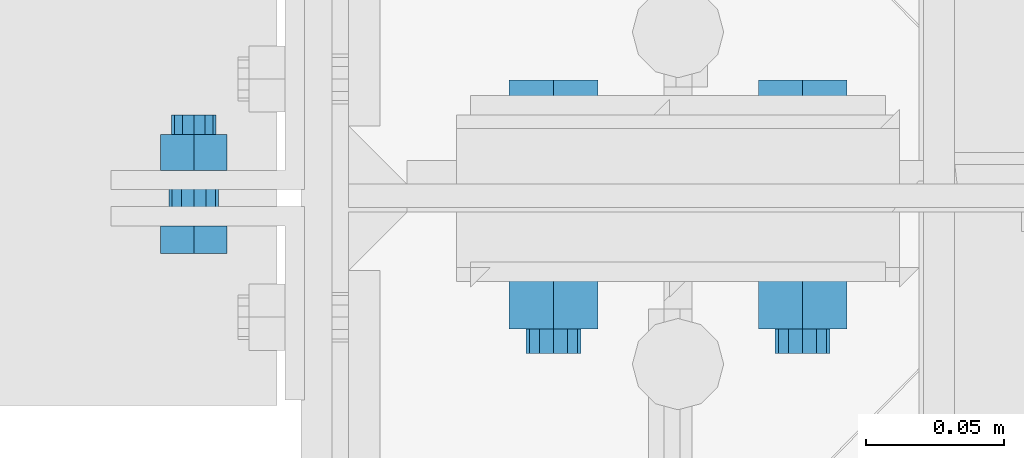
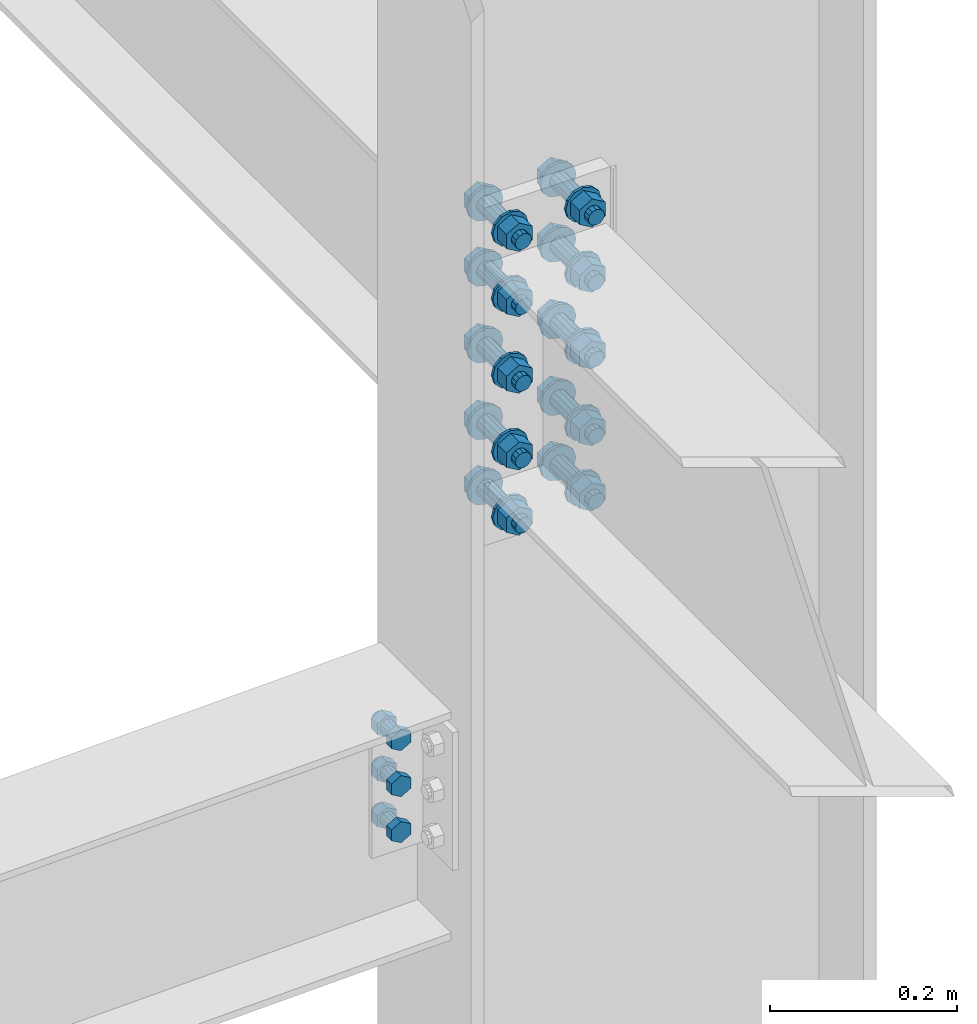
# One storey, part 92 of 3134: 2 mechanical fasteners, 2 elements without a shape of their own.
"""IFC2X3 building model written with IfcOpenShell, lengths in millimetres."""

from ifc_helpers import new_model, si_unit, frame, origin_with_axes, place, context, subcontext, project, spatial, faceted_brep, source, transform, mapped, material, type_object, element, aggregate, save


model = new_model("IFC2X3")

# Units and contexts
model_context = context("Model", 3, precision=1e-05, world=origin_with_axes())
body_context = subcontext(model_context, "Body", "Model", "MODEL_VIEW")
ifc_project = project(units=[si_unit("LENGTHUNIT", "METRE", prefix="MILLI"), si_unit("AREAUNIT", "SQUARE_METRE"), si_unit("VOLUMEUNIT", "CUBIC_METRE"), si_unit("MASSUNIT", "GRAM", prefix="KILO"), si_unit("TIMEUNIT", "SECOND"), si_unit("PLANEANGLEUNIT", "RADIAN"), si_unit("SOLIDANGLEUNIT", "STERADIAN"), si_unit("THERMODYNAMICTEMPERATUREUNIT", "DEGREE_CELSIUS"), si_unit("LUMINOUSINTENSITYUNIT", "LUMEN")], contexts=[model_context])

# Site, building, storey
site_placement = place(None, origin_with_axes())
site = spatial("IfcSite", under=ifc_project, at=site_placement, CompositionType="ELEMENT")
building_placement = place(site_placement, origin_with_axes())
building = spatial("IfcBuilding", under=site, at=building_placement, Name="Undefined", CompositionType="ELEMENT")
storey_placement = place(building_placement, origin_with_axes())
storey = spatial("IfcBuildingStorey", under=building, at=storey_placement, Name="Undefined", CompositionType="ELEMENT", Elevation=0.0)

# Assembly, mechanical fastener
assembly_1_placement = place(storey_placement, origin_with_axes())
assembly_1 = element("IfcElementAssembly", 1, at=assembly_1_placement, inside=storey, Name="300", AssemblyPlace="NOTDEFINED", PredefinedType="RIGID_FRAME")
ifc_material_1 = material(Name="HR10.9")
mechanical_fastener_type = type_object("IfcMechanicalFastenerType", Name="Bolt assembly")
shared_shape_1 = source(origin_with_axes(), body_context, "Body", "Brep", [
    faceted_brep([(18.475208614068, -18.3999996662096, 0.0), (9.23760430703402, -18.3999996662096, 16.0), (-9.23760430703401, -18.3999996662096, 16.0), (-18.475208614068, -18.3999996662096, 2.2625605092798e-15), (-9.23760430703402, -18.3999996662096, -16.0), (9.237604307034, -18.3999996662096, -16.0), (9.237604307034, -4.50000004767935, -16.0), (-9.23760430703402, -4.50000004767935, -16.0), (-18.475208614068, -4.50000004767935, 2.2625605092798e-15), (-9.23760430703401, -4.50000004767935, 16.0), (9.23760430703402, -4.50000004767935, 16.0), (18.475208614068, -4.50000004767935, 0.0), (10.0, -4.50000004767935, 0.0), (8.66025403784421, -4.50000004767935, 5.0000000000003), (4.9999999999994, -4.50000004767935, 8.66025403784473), (-1.03633598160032e-12, -4.50000004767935, 10.0), (-5.00000000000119, -4.50000004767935, 8.6602540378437), (-8.66025403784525, -4.50000004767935, 4.99999999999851), (-10.0, -4.50000004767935, -2.07267196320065e-12), (-8.66025403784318, -4.50000004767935, -5.00000000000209), (-4.99999999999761, -4.50000004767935, -8.66025403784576), (3.09790571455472e-12, -4.50000004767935, -10.0), (5.00000000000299, -4.50000004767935, -8.66025403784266), (8.66025403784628, -4.50000004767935, -4.99999999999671), (8.66025403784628, 80.4999999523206, -4.99999999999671), (5.00000000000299, 80.4999999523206, -8.66025403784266), (3.09790571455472e-12, 80.4999999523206, -10.0), (-4.99999999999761, 80.4999999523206, -8.66025403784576), (-8.66025403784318, 80.4999999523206, -5.00000000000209), (-10.0, 80.4999999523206, -2.07267196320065e-12), (-8.66025403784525, 80.4999999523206, 4.99999999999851), (-5.00000000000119, 80.4999999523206, 8.6602540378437), (-1.03633598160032e-12, 80.4999999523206, 10.0), (4.9999999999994, 80.4999999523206, 8.66025403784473), (8.66025403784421, 80.4999999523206, 5.0000000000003), (10.0, 80.4999999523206, 0.0), (22.0, -4.50000004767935, 0.0), (19.0525588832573, -4.50000004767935, 11.0000000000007), (10.9999999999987, -4.50000004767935, 19.0525588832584), (-2.27993915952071e-12, -4.50000004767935, 22.0), (-11.0000000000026, -4.50000004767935, 19.0525588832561), (-19.0525588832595, -4.50000004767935, 10.9999999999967), (-22.0, -4.50000004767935, -4.55987831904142e-12), (-19.052558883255, -4.50000004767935, -11.0000000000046), (-10.9999999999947, -4.50000004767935, -19.0525588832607), (6.81539257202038e-12, -4.50000004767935, -22.0), (11.0000000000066, -4.50000004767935, -19.0525588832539), (19.0525588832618, -4.50000004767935, -10.9999999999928), (19.0525588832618, -0.799999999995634, -10.9999999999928), (11.0000000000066, -0.799999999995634, -19.0525588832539), (6.81539257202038e-12, -0.799999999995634, -22.0), (-10.9999999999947, -0.799999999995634, -19.0525588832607), (-19.052558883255, -0.799999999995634, -11.0000000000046), (-22.0, -0.799999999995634, -4.55987831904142e-12), (-19.0525588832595, -0.799999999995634, 10.9999999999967), (-11.0000000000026, -0.799999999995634, 19.0525588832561), (-2.27993915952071e-12, -0.799999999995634, 22.0), (10.9999999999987, -0.799999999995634, 19.0525588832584), (19.0525588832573, -0.799999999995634, 11.0000000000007), (22.0, -0.799999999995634, 0.0), (22.0, 49.4000000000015, 0.0), (19.0525588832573, 49.4000000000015, 11.0000000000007), (10.9999999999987, 49.4000000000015, 19.0525588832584), (-2.27993915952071e-12, 49.4000000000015, 22.0), (-11.0000000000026, 49.4000000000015, 19.0525588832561), (-19.0525588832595, 49.4000000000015, 10.9999999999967), (-22.0, 49.4000000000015, -4.55987831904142e-12), (-19.052558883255, 49.4000000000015, -11.0000000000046), (-10.9999999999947, 49.4000000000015, -19.0525588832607), (6.81539257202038e-12, 49.4000000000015, -22.0), (11.0000000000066, 49.4000000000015, -19.0525588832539), (19.0525588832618, 49.4000000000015, -10.9999999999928), (19.0525588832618, 53.1000000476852, -10.9999999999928), (11.0000000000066, 53.1000000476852, -19.0525588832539), (6.81539257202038e-12, 53.1000000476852, -22.0), (-10.9999999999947, 53.1000000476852, -19.0525588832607), (-19.052558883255, 53.1000000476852, -11.0000000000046), (-22.0, 53.1000000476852, -4.55987831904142e-12), (-19.0525588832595, 53.1000000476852, 10.9999999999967), (-11.0000000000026, 53.1000000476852, 19.0525588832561), (-2.27993915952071e-12, 53.1000000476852, 22.0), (10.9999999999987, 53.1000000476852, 19.0525588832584), (19.0525588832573, 53.1000000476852, 11.0000000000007), (22.0, 53.1000000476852, 0.0), (18.475208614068, 53.1000000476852, 0.0), (9.23760430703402, 53.1000000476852, 16.0), (-9.23760430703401, 53.1000000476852, 16.0), (-18.475208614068, 53.1000000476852, 2.2625605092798e-15), (-9.23760430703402, 53.1000000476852, -16.0), (9.237604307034, 53.1000000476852, -16.0), (9.237604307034, 71.6499992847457, -16.0), (-9.23760430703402, 71.6499992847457, -16.0), (-18.475208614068, 71.6499992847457, 2.2625605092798e-15), (-9.23760430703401, 71.6499992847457, 16.0), (9.23760430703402, 71.6499992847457, 16.0), (18.475208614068, 71.6499992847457, 0.0)], [[[0, 1, 2, 3, 4, 5]], [[6, 7, 8, 9, 10, 11]], [[0, 11, 10, 1]], [[1, 10, 9, 2]], [[2, 9, 8, 3]], [[3, 8, 7, 4]], [[4, 7, 6, 5]], [[5, 6, 11, 0]], [[12, 13, 14, 15, 16, 17, 18, 19, 20, 21, 22, 23]], [[24, 25, 26, 27, 28, 29, 30, 31, 32, 33, 34, 35]], [[12, 35, 34, 13]], [[13, 34, 33, 14]], [[14, 33, 32, 15]], [[15, 32, 31, 16]], [[16, 31, 30, 17]], [[17, 30, 29, 18]], [[18, 29, 28, 19]], [[19, 28, 27, 20]], [[20, 27, 26, 21]], [[21, 26, 25, 22]], [[22, 25, 24, 23]], [[23, 24, 35, 12]], [[36, 37, 38, 39, 40, 41, 42, 43, 44, 45, 46, 47]], [[48, 49, 50, 51, 52, 53, 54, 55, 56, 57, 58, 59]], [[36, 59, 58, 37]], [[37, 58, 57, 38]], [[38, 57, 56, 39]], [[39, 56, 55, 40]], [[40, 55, 54, 41]], [[41, 54, 53, 42]], [[42, 53, 52, 43]], [[43, 52, 51, 44]], [[44, 51, 50, 45]], [[45, 50, 49, 46]], [[46, 49, 48, 47]], [[47, 48, 59, 36]], [[60, 61, 62, 63, 64, 65, 66, 67, 68, 69, 70, 71]], [[72, 73, 74, 75, 76, 77, 78, 79, 80, 81, 82, 83]], [[60, 83, 82, 61]], [[61, 82, 81, 62]], [[62, 81, 80, 63]], [[63, 80, 79, 64]], [[64, 79, 78, 65]], [[65, 78, 77, 66]], [[66, 77, 76, 67]], [[67, 76, 75, 68]], [[68, 75, 74, 69]], [[69, 74, 73, 70]], [[70, 73, 72, 71]], [[71, 72, 83, 60]], [[84, 85, 86, 87, 88, 89]], [[90, 91, 92, 93, 94, 95]], [[84, 95, 94, 85]], [[85, 94, 93, 86]], [[86, 93, 92, 87]], [[87, 92, 91, 88]], [[88, 91, 90, 89]], [[89, 90, 95, 84]]]),
    faceted_brep([(11.0, 19.2000000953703, 0.0), (9.52627944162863, 19.2000000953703, 5.50000000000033), (5.49999999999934, 19.2000000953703, 9.5262794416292), (-1.13996957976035e-12, 19.2000000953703, 11.0), (-5.50000000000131, 19.2000000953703, 9.52627944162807), (-9.52627944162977, 19.2000000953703, 5.49999999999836), (-11.0, 19.2000000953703, -2.27993915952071e-12), (-9.5262794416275, 19.2000000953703, -5.5000000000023), (-5.49999999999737, 19.2000000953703, -9.52627944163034), (3.40769628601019e-12, 19.2000000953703, -11.0), (5.50000000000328, 19.2000000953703, -9.52627944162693), (9.52627944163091, 19.2000000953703, -5.49999999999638), (9.52627944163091, 29.3999999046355, -5.49999999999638), (5.50000000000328, 29.3999999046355, -9.52627944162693), (3.40769628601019e-12, 29.3999999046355, -11.0), (-5.49999999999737, 29.3999999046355, -9.52627944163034), (-9.5262794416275, 29.3999999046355, -5.5000000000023), (-11.0, 29.3999999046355, -2.27993915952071e-12), (-9.52627944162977, 29.3999999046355, 5.49999999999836), (-5.50000000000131, 29.3999999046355, 9.52627944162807), (-1.13996957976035e-12, 29.3999999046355, 11.0), (5.49999999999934, 29.3999999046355, 9.5262794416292), (9.52627944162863, 29.3999999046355, 5.50000000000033), (11.0, 29.3999999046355, 0.0), (11.0, -0.699999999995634, 0.0), (9.52627944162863, -0.699999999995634, 5.50000000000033), (5.49999999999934, -0.699999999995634, 9.5262794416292), (-1.13996957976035e-12, -0.699999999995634, 11.0), (-5.50000000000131, -0.699999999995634, 9.52627944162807), (-9.52627944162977, -0.699999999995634, 5.49999999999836), (-11.0, -0.699999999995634, -2.27993915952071e-12), (-9.5262794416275, -0.699999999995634, -5.5000000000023), (-5.49999999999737, -0.699999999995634, -9.52627944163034), (3.40769628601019e-12, -0.699999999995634, -11.0), (5.50000000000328, -0.699999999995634, -9.52627944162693), (9.52627944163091, -0.699999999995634, -5.49999999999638), (9.52627944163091, 19.3000000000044, -5.49999999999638), (5.50000000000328, 19.3000000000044, -9.52627944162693), (3.40769628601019e-12, 19.3000000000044, -11.0), (-5.49999999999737, 19.3000000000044, -9.52627944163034), (-9.5262794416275, 19.3000000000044, -5.5000000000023), (-11.0, 19.3000000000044, -2.27993915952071e-12), (-9.52627944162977, 19.3000000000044, 5.49999999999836), (-5.50000000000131, 19.3000000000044, 9.52627944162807), (-1.13996957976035e-12, 19.3000000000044, 11.0), (5.49999999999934, 19.3000000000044, 9.5262794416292), (9.52627944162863, 19.3000000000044, 5.50000000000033), (11.0, 19.3000000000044, 0.0), (11.0, 29.3000000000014, 0.0), (9.52627944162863, 29.3000000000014, 5.50000000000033), (5.49999999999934, 29.3000000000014, 9.5262794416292), (-1.13996957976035e-12, 29.3000000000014, 11.0), (-5.50000000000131, 29.3000000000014, 9.52627944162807), (-9.52627944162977, 29.3000000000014, 5.49999999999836), (-11.0, 29.3000000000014, -2.27993915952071e-12), (-9.5262794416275, 29.3000000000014, -5.5000000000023), (-5.49999999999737, 29.3000000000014, -9.52627944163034), (3.40769628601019e-12, 29.3000000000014, -11.0), (5.50000000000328, 29.3000000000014, -9.52627944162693), (9.52627944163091, 29.3000000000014, -5.49999999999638), (9.52627944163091, 49.4000000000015, -5.49999999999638), (5.50000000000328, 49.4000000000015, -9.52627944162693), (3.40769628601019e-12, 49.4000000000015, -11.0), (-5.49999999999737, 49.4000000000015, -9.52627944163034), (-9.5262794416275, 49.4000000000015, -5.5000000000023), (-11.0, 49.4000000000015, -2.27993915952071e-12), (-9.52627944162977, 49.4000000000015, 5.49999999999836), (-5.50000000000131, 49.4000000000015, 9.52627944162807), (-1.13996957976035e-12, 49.4000000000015, 11.0), (5.49999999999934, 49.4000000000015, 9.5262794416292), (9.52627944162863, 49.4000000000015, 5.50000000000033), (11.0, 49.4000000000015, 0.0)], [[[0, 1, 2, 3, 4, 5, 6, 7, 8, 9, 10, 11]], [[12, 13, 14, 15, 16, 17, 18, 19, 20, 21, 22, 23]], [[0, 23, 22, 1]], [[1, 22, 21, 2]], [[2, 21, 20, 3]], [[3, 20, 19, 4]], [[4, 19, 18, 5]], [[5, 18, 17, 6]], [[6, 17, 16, 7]], [[7, 16, 15, 8]], [[8, 15, 14, 9]], [[9, 14, 13, 10]], [[10, 13, 12, 11]], [[11, 12, 23, 0]], [[24, 25, 26, 27, 28, 29, 30, 31, 32, 33, 34, 35]], [[36, 37, 38, 39, 40, 41, 42, 43, 44, 45, 46, 47]], [[24, 47, 46, 25]], [[25, 46, 45, 26]], [[26, 45, 44, 27]], [[27, 44, 43, 28]], [[28, 43, 42, 29]], [[29, 42, 41, 30]], [[30, 41, 40, 31]], [[31, 40, 39, 32]], [[32, 39, 38, 33]], [[33, 38, 37, 34]], [[34, 37, 36, 35]], [[35, 36, 47, 24]], [[48, 49, 50, 51, 52, 53, 54, 55, 56, 57, 58, 59]], [[60, 61, 62, 63, 64, 65, 66, 67, 68, 69, 70, 71]], [[48, 71, 70, 49]], [[49, 70, 69, 50]], [[50, 69, 68, 51]], [[51, 68, 67, 52]], [[52, 67, 66, 53]], [[53, 66, 65, 54]], [[54, 65, 64, 55]], [[55, 64, 63, 56]], [[56, 63, 62, 57]], [[57, 62, 61, 58]], [[58, 61, 60, 59]], [[59, 60, 71, 48]]]),
])
mechanical_fastener_1_placement = place(assembly_1_placement, frame((20850.0, 19474.3, 4273.5), z_axis=(-1.0, 0.0, 0.0), x_axis=(0.0, 0.0, -1.0)))
mechanical_fastener_1 = element("IfcMechanicalFastener", 2, at=mechanical_fastener_1_placement, type_object=mechanical_fastener_type, material=ifc_material_1, Name="Bolt assembly", NominalDiameter=20.0, NominalLength=85.0, context=body_context, shape_type="MappedRepresentation", body=[
    mapped(shared_shape_1, transform((0.0, 0.0, -45.0))),
    mapped(shared_shape_1, transform((85.0, 0.0, -45.0))),
    mapped(shared_shape_1, transform((185.0, 0.0, -45.0))),
    mapped(shared_shape_1, transform((285.0, 0.0, -45.0))),
    mapped(shared_shape_1, transform((370.0, 0.0, -45.0))),
    mapped(shared_shape_1, transform((0.0, 0.0, 45.0))),
    mapped(shared_shape_1, transform((85.0, 0.0, 45.0))),
    mapped(shared_shape_1, transform((185.0, 0.0, 45.0))),
    mapped(shared_shape_1, transform((285.0, 0.0, 45.0))),
    mapped(shared_shape_1, transform((370.0, 0.0, 45.0))),
])
aggregate(assembly_1, [mechanical_fastener_1])

assembly_2_placement = place(storey_placement, origin_with_axes())
assembly_2 = element("IfcElementAssembly", 3, at=assembly_2_placement, inside=storey, AssemblyPlace="NOTDEFINED", PredefinedType="RIGID_FRAME")
ifc_material_2 = material(Name="8.8")
shared_shape_2 = source(origin_with_axes(), body_context, "Body", "Brep", [
    faceted_brep([(13.856406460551, -20.0400000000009, 0.0), (6.92820323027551, -20.0400000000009, 12.0), (-6.92820323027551, -20.0400000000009, 12.0), (-13.856406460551, -20.0400000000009, 1.69692038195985e-15), (-6.92820323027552, -20.0400000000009, -12.0), (6.9282032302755, -20.0400000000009, -12.0), (6.9282032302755, -10.0400000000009, -12.0), (-6.92820323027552, -10.0400000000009, -12.0), (-13.856406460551, -10.0400000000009, 1.69692038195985e-15), (-6.92820323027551, -10.0400000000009, 12.0), (6.92820323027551, -10.0400000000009, 12.0), (13.856406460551, -10.0400000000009, 0.0), (8.0, -10.0400000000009, 0.0), (6.92820323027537, -10.0400000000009, 4.00000000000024), (3.99999999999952, -10.0400000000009, 6.92820323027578), (-8.29068785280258e-13, -10.0400000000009, 8.0), (-4.00000000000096, -10.0400000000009, 6.92820323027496), (-6.9282032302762, -10.0400000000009, 3.99999999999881), (-8.0, -10.0400000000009, -1.65813757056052e-12), (-6.92820323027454, -10.0400000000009, -4.00000000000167), (-3.99999999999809, -10.0400000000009, -6.92820323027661), (2.47832457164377e-12, -10.0400000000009, -8.0), (4.00000000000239, -10.0400000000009, -6.92820323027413), (6.92820323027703, -10.0400000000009, -3.99999999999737), (6.92820323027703, 29.9599999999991, -3.99999999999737), (4.00000000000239, 29.9599999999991, -6.92820323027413), (2.47832457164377e-12, 29.9599999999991, -8.0), (-3.99999999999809, 29.9599999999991, -6.92820323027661), (-6.92820323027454, 29.9599999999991, -4.00000000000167), (-8.0, 29.9599999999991, -1.65813757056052e-12), (-6.9282032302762, 29.9599999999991, 3.99999999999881), (-4.00000000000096, 29.9599999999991, 6.92820323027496), (-8.29068785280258e-13, 29.9599999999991, 8.0), (3.99999999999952, 29.9599999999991, 6.92820323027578), (6.92820323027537, 29.9599999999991, 4.00000000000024), (8.0, 29.9599999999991, 0.0), (13.856406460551, 10.0400000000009, 0.0), (6.92820323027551, 10.0400000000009, 12.0), (-6.92820323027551, 10.0400000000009, 12.0), (-13.856406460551, 10.0400000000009, 1.69692038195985e-15), (-6.92820323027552, 10.0400000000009, -12.0), (6.9282032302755, 10.0400000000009, -12.0), (6.9282032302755, 23.0400000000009, -12.0), (-6.92820323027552, 23.0400000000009, -12.0), (-13.856406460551, 23.0400000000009, 1.69692038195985e-15), (-6.92820323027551, 23.0400000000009, 12.0), (6.92820323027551, 23.0400000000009, 12.0), (13.856406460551, 23.0400000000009, 0.0)], [[[0, 1, 2, 3, 4, 5]], [[6, 7, 8, 9, 10, 11]], [[0, 11, 10, 1]], [[1, 10, 9, 2]], [[2, 9, 8, 3]], [[3, 8, 7, 4]], [[4, 7, 6, 5]], [[5, 6, 11, 0]], [[12, 13, 14, 15, 16, 17, 18, 19, 20, 21, 22, 23]], [[24, 25, 26, 27, 28, 29, 30, 31, 32, 33, 34, 35]], [[12, 35, 34, 13]], [[13, 34, 33, 14]], [[14, 33, 32, 15]], [[15, 32, 31, 16]], [[16, 31, 30, 17]], [[17, 30, 29, 18]], [[18, 29, 28, 19]], [[19, 28, 27, 20]], [[20, 27, 26, 21]], [[21, 26, 25, 22]], [[22, 25, 24, 23]], [[23, 24, 35, 12]], [[36, 37, 38, 39, 40, 41]], [[42, 43, 44, 45, 46, 47]], [[36, 47, 46, 37]], [[37, 46, 45, 38]], [[38, 45, 44, 39]], [[39, 44, 43, 40]], [[40, 43, 42, 41]], [[41, 42, 47, 36]]]),
    faceted_brep([(9.0, -3.04999995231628, 0.0), (7.79422863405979, -3.04999995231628, 4.50000000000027), (4.49999999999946, -3.04999995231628, 7.79422863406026), (-9.3270238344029e-13, -3.04999995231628, 9.0), (-4.50000000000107, -3.04999995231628, 7.79422863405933), (-7.79422863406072, -3.04999995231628, 4.49999999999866), (-9.0, -3.04999995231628, -1.86540476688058e-12), (-7.79422863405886, -3.04999995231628, -4.50000000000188), (-4.49999999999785, -3.04999995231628, -7.79422863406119), (2.78811514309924e-12, -3.04999995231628, -9.0), (4.50000000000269, -3.04999995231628, -7.7942286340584), (7.79422863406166, -3.04999995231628, -4.49999999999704), (7.79422863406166, 3.04999995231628, -4.49999999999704), (4.50000000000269, 3.04999995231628, -7.7942286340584), (2.78811514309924e-12, 3.04999995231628, -9.0), (-4.49999999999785, 3.04999995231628, -7.79422863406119), (-7.79422863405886, 3.04999995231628, -4.50000000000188), (-9.0, 3.04999995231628, -1.86540476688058e-12), (-7.79422863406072, 3.04999995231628, 4.49999999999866), (-4.50000000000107, 3.04999995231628, 7.79422863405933), (-9.3270238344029e-13, 3.04999995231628, 9.0), (4.49999999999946, 3.04999995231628, 7.79422863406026), (7.79422863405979, 3.04999995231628, 4.50000000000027), (9.0, 3.04999995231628, 0.0), (9.0, -9.94000000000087, 0.0), (7.79422863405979, -9.94000000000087, 4.50000000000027), (4.49999999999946, -9.94000000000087, 7.79422863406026), (-9.3270238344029e-13, -9.94000000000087, 9.0), (-4.50000000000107, -9.94000000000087, 7.79422863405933), (-7.79422863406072, -9.94000000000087, 4.49999999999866), (-9.0, -9.94000000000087, -1.86540476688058e-12), (-7.79422863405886, -9.94000000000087, -4.50000000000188), (-4.49999999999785, -9.94000000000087, -7.79422863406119), (2.78811514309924e-12, -9.94000000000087, -9.0), (4.50000000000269, -9.94000000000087, -7.7942286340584), (7.79422863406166, -9.94000000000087, -4.49999999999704), (7.79422863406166, -2.94000000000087, -4.49999999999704), (4.50000000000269, -2.94000000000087, -7.7942286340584), (2.78811514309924e-12, -2.94000000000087, -9.0), (-4.49999999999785, -2.94000000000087, -7.79422863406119), (-7.79422863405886, -2.94000000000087, -4.50000000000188), (-9.0, -2.94000000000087, -1.86540476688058e-12), (-7.79422863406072, -2.94000000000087, 4.49999999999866), (-4.50000000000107, -2.94000000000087, 7.79422863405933), (-9.3270238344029e-13, -2.94000000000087, 9.0), (4.49999999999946, -2.94000000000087, 7.79422863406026), (7.79422863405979, -2.94000000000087, 4.50000000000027), (9.0, -2.94000000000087, 0.0), (9.0, 2.94000000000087, 0.0), (7.79422863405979, 2.94000000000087, 4.50000000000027), (4.49999999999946, 2.94000000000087, 7.79422863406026), (-9.3270238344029e-13, 2.94000000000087, 9.0), (-4.50000000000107, 2.94000000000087, 7.79422863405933), (-7.79422863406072, 2.94000000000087, 4.49999999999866), (-9.0, 2.94000000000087, -1.86540476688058e-12), (-7.79422863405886, 2.94000000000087, -4.50000000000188), (-4.49999999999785, 2.94000000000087, -7.79422863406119), (2.78811514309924e-12, 2.94000000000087, -9.0), (4.50000000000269, 2.94000000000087, -7.7942286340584), (7.79422863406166, 2.94000000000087, -4.49999999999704), (7.79422863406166, 10.0400000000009, -4.49999999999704), (4.50000000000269, 10.0400000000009, -7.7942286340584), (2.78811514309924e-12, 10.0400000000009, -9.0), (-4.49999999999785, 10.0400000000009, -7.79422863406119), (-7.79422863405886, 10.0400000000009, -4.50000000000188), (-9.0, 10.0400000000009, -1.86540476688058e-12), (-7.79422863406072, 10.0400000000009, 4.49999999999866), (-4.50000000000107, 10.0400000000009, 7.79422863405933), (-9.3270238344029e-13, 10.0400000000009, 9.0), (4.49999999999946, 10.0400000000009, 7.79422863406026), (7.79422863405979, 10.0400000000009, 4.50000000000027), (9.0, 10.0400000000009, 0.0)], [[[0, 1, 2, 3, 4, 5, 6, 7, 8, 9, 10, 11]], [[12, 13, 14, 15, 16, 17, 18, 19, 20, 21, 22, 23]], [[0, 23, 22, 1]], [[1, 22, 21, 2]], [[2, 21, 20, 3]], [[3, 20, 19, 4]], [[4, 19, 18, 5]], [[5, 18, 17, 6]], [[6, 17, 16, 7]], [[7, 16, 15, 8]], [[8, 15, 14, 9]], [[9, 14, 13, 10]], [[10, 13, 12, 11]], [[11, 12, 23, 0]], [[24, 25, 26, 27, 28, 29, 30, 31, 32, 33, 34, 35]], [[36, 37, 38, 39, 40, 41, 42, 43, 44, 45, 46, 47]], [[24, 47, 46, 25]], [[25, 46, 45, 26]], [[26, 45, 44, 27]], [[27, 44, 43, 28]], [[28, 43, 42, 29]], [[29, 42, 41, 30]], [[30, 41, 40, 31]], [[31, 40, 39, 32]], [[32, 39, 38, 33]], [[33, 38, 37, 34]], [[34, 37, 36, 35]], [[35, 36, 47, 24]], [[48, 49, 50, 51, 52, 53, 54, 55, 56, 57, 58, 59]], [[60, 61, 62, 63, 64, 65, 66, 67, 68, 69, 70, 71]], [[48, 71, 70, 49]], [[49, 70, 69, 50]], [[50, 69, 68, 51]], [[51, 68, 67, 52]], [[52, 67, 66, 53]], [[53, 66, 65, 54]], [[54, 65, 64, 55]], [[55, 64, 63, 56]], [[56, 63, 62, 57]], [[57, 62, 61, 58]], [[58, 61, 60, 59]], [[59, 60, 71, 48]]]),
])
mechanical_fastener_2_placement = place(assembly_2_placement, frame((20674.9983435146, 19450.0, 3647.00367353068), z_axis=(1.0, 0.0, 0.0), x_axis=(0.0, 0.0, -1.0)))
mechanical_fastener_2 = element("IfcMechanicalFastener", 4, at=mechanical_fastener_2_placement, type_object=mechanical_fastener_type, material=ifc_material_2, Name="Bolt assembly", NominalDiameter=16.0, NominalLength=40.0, context=body_context, shape_type="MappedRepresentation", body=[
    mapped(shared_shape_2, transform((0.0, 0.0, 0.0))),
    mapped(shared_shape_2, transform((59.9999999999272, 0.0, 5.40239852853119e-10))),
    mapped(shared_shape_2, transform((120.0, 0.0, 0.0))),
])
aggregate(assembly_2, [mechanical_fastener_2])

save(model, "model.ifc")
